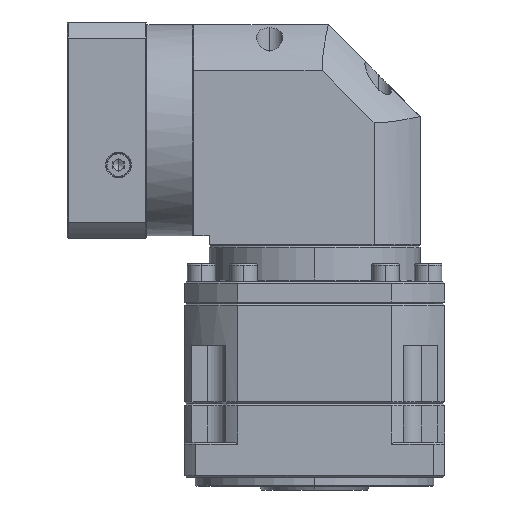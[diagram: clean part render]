
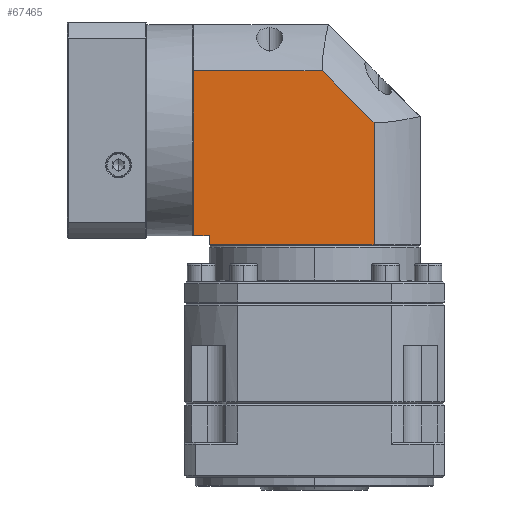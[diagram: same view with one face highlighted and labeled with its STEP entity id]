
A CAD part, left-side view. The second image highlights one B-rep face of the part: STEP entity #67465.
In plain terms, the highlighted planar face has unit normal (-1, 0, 0).
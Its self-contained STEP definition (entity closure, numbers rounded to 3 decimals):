
#3713 = CARTESIAN_POINT ( 'NONE',  ( -197.877, 14.057, -82.103 ) ) ;
#8615 = ORIENTED_EDGE ( 'NONE', *, *, #12597, .F. ) ;
#9149 = LINE ( 'NONE', #118553, #44787 ) ;
#11509 = VECTOR ( 'NONE', #140738, 1000. ) ;
#12597 = EDGE_CURVE ( 'NONE', #82346, #24477, #52761, .T. ) ;
#14128 = DIRECTION ( 'NONE',  ( 0., -1., 0. ) ) ;
#14820 = CARTESIAN_POINT ( 'NONE',  ( -197.877, 129.057, -75.603 ) ) ;
#24477 = VERTEX_POINT ( 'NONE', #93344 ) ;
#25085 = CARTESIAN_POINT ( 'NONE',  ( -197.877, 14.057, 19.297 ) ) ;
#25991 = VERTEX_POINT ( 'NONE', #75538 ) ;
#28207 = LINE ( 'NONE', #61063, #132073 ) ;
#33966 = VECTOR ( 'NONE', #129380, 1000. ) ;
#35849 = VERTEX_POINT ( 'NONE', #44837 ) ;
#38619 = EDGE_CURVE ( 'NONE', #24477, #25991, #127421, .T. ) ;
#42641 = LINE ( 'NONE', #78042, #93772 ) ;
#44787 = VECTOR ( 'NONE', #130926, 1000. ) ;
#44837 = CARTESIAN_POINT ( 'NONE',  ( -197.877, 129.057, -70.603 ) ) ;
#48531 = EDGE_CURVE ( 'NONE', #112904, #35849, #9149, .T. ) ;
#50490 = ORIENTED_EDGE ( 'NONE', *, *, #113847, .F. ) ;
#52761 = LINE ( 'NONE', #25085, #56224 ) ;
#54291 = CARTESIAN_POINT ( 'NONE',  ( -197.877, 137.457, -82.103 ) ) ;
#56165 = VERTEX_POINT ( 'NONE', #14820 ) ;
#56176 = ORIENTED_EDGE ( 'NONE', *, *, #38619, .F. ) ;
#56224 = VECTOR ( 'NONE', #79783, 1000. ) ;
#57479 = EDGE_CURVE ( 'NONE', #25991, #110317, #42641, .T. ) ;
#58232 = DIRECTION ( 'NONE',  ( 1., 0., 0. ) ) ;
#59939 = ORIENTED_EDGE ( 'NONE', *, *, #48531, .T. ) ;
#61063 = CARTESIAN_POINT ( 'NONE',  ( -197.877, 14.057, -75.603 ) ) ;
#67294 = PLANE ( 'NONE',  #133004 ) ;
#67465 = ADVANCED_FACE ( 'NONE', ( #120371 ), #67294, .F. ) ;
#69455 = CARTESIAN_POINT ( 'NONE',  ( -197.877, 137.457, -70.603 ) ) ;
#69640 = VECTOR ( 'NONE', #75884, 1000. ) ;
#69660 = DIRECTION ( 'NONE',  ( 0., 1., 0. ) ) ;
#74426 = LINE ( 'NONE', #54291, #11509 ) ;
#75538 = CARTESIAN_POINT ( 'NONE',  ( -197.877, 39.157, -9.041 ) ) ;
#75884 = DIRECTION ( 'NONE',  ( 0., -0.707, -0.707 ) ) ;
#78042 = CARTESIAN_POINT ( 'NONE',  ( -197.877, 39.157, -82.103 ) ) ;
#79783 = DIRECTION ( 'NONE',  ( 0., -1., 0. ) ) ;
#82346 = VERTEX_POINT ( 'NONE', #125503 ) ;
#89469 = DIRECTION ( 'NONE',  ( 0., 0., -1. ) ) ;
#90192 = ORIENTED_EDGE ( 'NONE', *, *, #57479, .F. ) ;
#92214 = EDGE_CURVE ( 'NONE', #112904, #82346, #74426, .T. ) ;
#93344 = CARTESIAN_POINT ( 'NONE',  ( -197.877, 67.495, 19.297 ) ) ;
#93772 = VECTOR ( 'NONE', #89469, 1000. ) ;
#99242 = ORIENTED_EDGE ( 'NONE', *, *, #112776, .T. ) ;
#105813 = EDGE_LOOP ( 'NONE', ( #90192, #56176, #8615, #132469, #59939, #99242, #50490 ) ) ;
#110317 = VERTEX_POINT ( 'NONE', #124760 ) ;
#112776 = EDGE_CURVE ( 'NONE', #35849, #56165, #113901, .T. ) ;
#112904 = VERTEX_POINT ( 'NONE', #69455 ) ;
#113847 = EDGE_CURVE ( 'NONE', #110317, #56165, #28207, .T. ) ;
#113901 = LINE ( 'NONE', #139765, #33966 ) ;
#118553 = CARTESIAN_POINT ( 'NONE',  ( -197.877, 129.057, -70.603 ) ) ;
#118603 = CARTESIAN_POINT ( 'NONE',  ( -197.877, 67.495, 19.297 ) ) ;
#120371 = FACE_OUTER_BOUND ( 'NONE', #105813, .T. ) ;
#124760 = CARTESIAN_POINT ( 'NONE',  ( -197.877, 39.157, -75.603 ) ) ;
#125503 = CARTESIAN_POINT ( 'NONE',  ( -197.877, 137.457, 19.297 ) ) ;
#127421 = LINE ( 'NONE', #118603, #69640 ) ;
#129380 = DIRECTION ( 'NONE',  ( 0., 0., -1. ) ) ;
#130926 = DIRECTION ( 'NONE',  ( 0., -1., 0. ) ) ;
#132073 = VECTOR ( 'NONE', #69660, 1000. ) ;
#132469 = ORIENTED_EDGE ( 'NONE', *, *, #92214, .F. ) ;
#133004 = AXIS2_PLACEMENT_3D ( 'NONE', #3713, #58232, #14128 ) ;
#139765 = CARTESIAN_POINT ( 'NONE',  ( -197.877, 129.057, 44.397 ) ) ;
#140738 = DIRECTION ( 'NONE',  ( 0., 0., 1. ) ) ;
